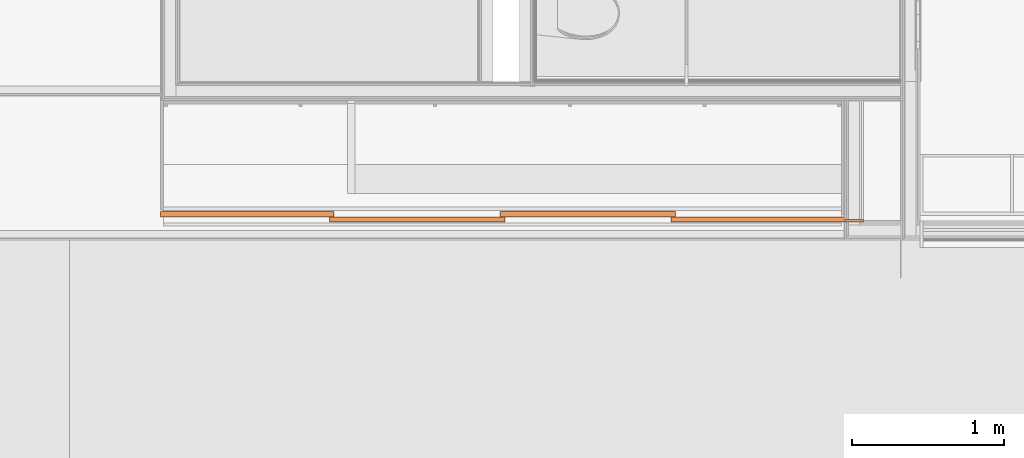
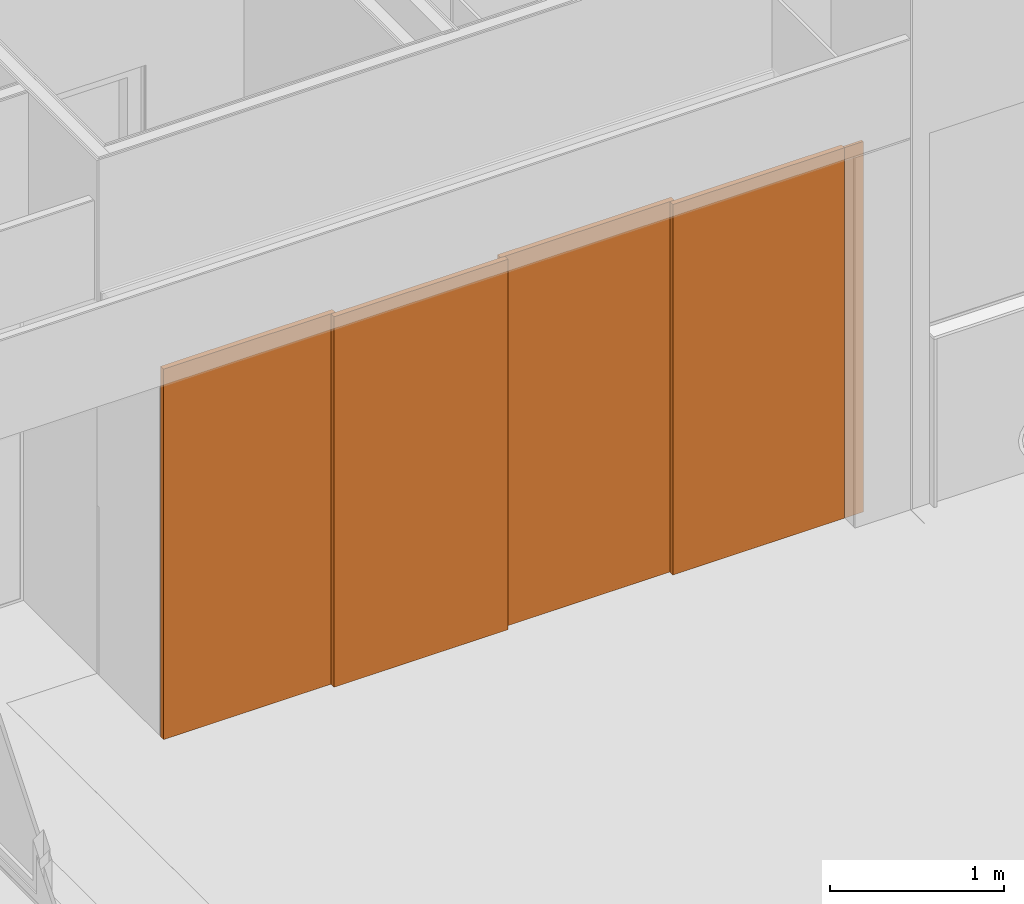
# One storey, part 120 of 137: 5 proxies, 2 openings.
"""IFC2X3 building model written with IfcOpenShell, lengths in millimetres."""

from ifc_helpers import new_model, entity, si_unit, converted_unit, derived_unit, money_unit, direction, frame, origin_with_axes, place, context, subcontext, project, spatial, faceted_brep, source, transform, mapped, material, type_object, type_shapes, element, fill, save


model = new_model("IFC2X3")

# Units and contexts
model_context = context("Model", 3, precision=0.01, world=origin_with_axes(), true_north=direction((0.0, 1.0)))
body_context = subcontext(model_context, "Body", "Model", "MODEL_VIEW")
ifc_project = project(units=[si_unit("LENGTHUNIT", "METRE", prefix="MILLI"), si_unit("AREAUNIT", "SQUARE_METRE"), si_unit("VOLUMEUNIT", "CUBIC_METRE"), converted_unit("PLANEANGLEUNIT", "DEGREE", entity("IfcPlaneAngleMeasure", 0.0174532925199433), si_unit("PLANEANGLEUNIT", "RADIAN"), dimensions=[0, 0, 0, 0, 0, 0, 0]), money_unit("EUR"), converted_unit("TIMEUNIT", "Year", entity("IfcTimeMeasure", 31556926.0), si_unit("TIMEUNIT", "SECOND"), dimensions=[0, 0, 1, 0, 0, 0, 0]), si_unit("MASSUNIT", "GRAM", prefix="KILO"), si_unit("THERMODYNAMICTEMPERATUREUNIT", "DEGREE_CELSIUS"), si_unit("LUMINOUSINTENSITYUNIT", "LUMEN"), si_unit("ENERGYUNIT", "JOULE", prefix="MEGA"), derived_unit("THERMALCONDUCTANCEUNIT", [(si_unit("POWERUNIT", "WATT"), 1), (si_unit("LENGTHUNIT", "METRE"), -1), (si_unit("THERMODYNAMICTEMPERATUREUNIT", "KELVIN"), -1)]), derived_unit("SPECIFICHEATCAPACITYUNIT", [(si_unit("ENERGYUNIT", "JOULE"), 1), (si_unit("MASSUNIT", "GRAM", prefix="KILO"), -1), (si_unit("THERMODYNAMICTEMPERATUREUNIT", "KELVIN"), -1)]), derived_unit("MASSDENSITYUNIT", [(si_unit("MASSUNIT", "GRAM", prefix="KILO"), 1), (si_unit("VOLUMEUNIT", "CUBIC_METRE"), -1)])], contexts=[model_context])

# Site, building, storey
site_placement = place(None, origin_with_axes())
site = spatial("IfcSite", under=ifc_project, at=site_placement, Name="Site", CompositionType="ELEMENT")
building_placement = place(site_placement, origin_with_axes())
building = spatial("IfcBuilding", under=site, at=building_placement, Name="Naam gebouw", CompositionType="ELEMENT")
storey_placement = place(building_placement, frame((0.0, 0.0, 3960.0), z_axis=(0.0, 0.0, 1.0), x_axis=(1.0, 0.0, 0.0)))
storey = spatial("IfcBuildingStorey", under=building, at=storey_placement, Name="1e verdieping", CompositionType="ELEMENT", Elevation=3960.0)

# Proxies
building_element_proxy_type_1 = type_object("IfcBuildingElementProxyType", Name="gevelbekleding", PredefinedType="NOTDEFINED")
shared_shape_1 = source(origin_with_axes(), body_context, "Body", "Brep", [
    faceted_brep([(577.5, 0.0, 0.0), (577.5, -35.0, 0.0), (572.5, -35.0, 0.0), (572.5, 0.0, 0.0), (577.5, 0.0, 2600.0), (577.5, -35.0, 2600.0), (572.5, -35.0, 2600.0), (572.5, 0.0, 2600.0)], [[[0, 1, 2, 3]], [[4, 5, 1, 0]], [[1, 5, 6, 2]], [[3, 2, 6, 7]], [[0, 3, 7, 4]], [[7, 6, 5, 4]]]),
    faceted_brep([(-577.5, 0.0, 0.0), (-577.5, -35.0, 0.0), (-577.5, -35.0, 2600.0), (-577.5, 0.0, 2600.0), (-572.5000000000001, 0.0, 0.0), (-572.5000000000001, -35.0, 0.0), (-572.5000000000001, -35.0, 2600.0), (-572.5000000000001, 0.0, 2600.0)], [[[0, 1, 2, 3]], [[4, 5, 1, 0]], [[1, 5, 6, 2]], [[3, 2, 6, 7]], [[0, 3, 7, 4]], [[7, 6, 5, 4]]]),
    faceted_brep([(577.5, 0.0, 0.0), (577.5, -35.0, 0.0), (-577.5, -35.0, 0.0), (-577.5, 0.0, 0.0), (577.5, 0.0, 2600.0), (577.5, -35.0, 2600.0), (-577.5, -35.0, 2600.0), (-577.5, 0.0, 2600.0)], [[[0, 1, 2, 3]], [[4, 5, 1, 0]], [[1, 5, 6, 2]], [[3, 2, 6, 7]], [[0, 3, 7, 4]], [[7, 6, 5, 4]]]),
])
proxy_1_placement = place(storey_placement, frame((4209.000071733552, 19504.97621406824, 0.0), z_axis=(0.0, 0.0, 1.0), x_axis=(-1.0, 0.0, 0.0)))
element("IfcBuildingElementProxy", 1, at=proxy_1_placement, inside=storey, type_object=building_element_proxy_type_1, Name="_-", context=body_context, shape_type="MappedRepresentation", body=[
    mapped(shared_shape_1, transform((577.4999999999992, 0.0, 0.0))),
])
shared_shape_2 = source(origin_with_axes(), body_context, "Body", "Brep", [
    faceted_brep([(-570.0, 0.0, 0.0), (-565.0, 0.0, 0.0), (-565.0, -35.0, 0.0), (-570.0, -35.0, 0.0), (-570.0, 0.0, 2600.0), (-565.0, 0.0, 2600.0), (-565.0, -35.0, 2600.0), (-570.0, -35.0, 2600.0)], [[[0, 1, 2, 3]], [[0, 4, 5, 1]], [[1, 5, 6, 2]], [[3, 2, 6, 7]], [[4, 0, 3, 7]], [[5, 4, 7, 6]]]),
    faceted_brep([(570.0, 0.0, 0.0), (570.0, 0.0, 2600.0), (570.0, -35.0, 2600.0), (570.0, -35.0, 0.0), (565.0000000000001, 0.0, 0.0), (565.0000000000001, 0.0, 2600.0), (565.0000000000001, -35.0, 2600.0), (565.0000000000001, -35.0, 0.0)], [[[0, 1, 2, 3]], [[0, 4, 5, 1]], [[1, 5, 6, 2]], [[3, 2, 6, 7]], [[4, 0, 3, 7]], [[5, 4, 7, 6]]]),
    faceted_brep([(-570.0, 0.0, 0.0), (570.0, 0.0, 0.0), (570.0, -35.0, 0.0), (-570.0, -35.0, 0.0), (-570.0, 0.0, 2600.0), (570.0, 0.0, 2600.0), (570.0, -35.0, 2600.0), (-570.0, -35.0, 2600.0)], [[[0, 1, 2, 3]], [[0, 4, 5, 1]], [[1, 5, 6, 2]], [[3, 2, 6, 7]], [[4, 0, 3, 7]], [[5, 4, 7, 6]]]),
])
proxy_2_placement = place(storey_placement, frame((3084.000001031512, 19504.97621406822, 0.0), z_axis=(0.0, 0.0, 1.0), x_axis=(-1.0, 0.0, 0.0)))
element("IfcBuildingElementProxy", 2, at=proxy_2_placement, inside=storey, type_object=building_element_proxy_type_1, Name="_-", context=body_context, shape_type="MappedRepresentation", body=[
    mapped(shared_shape_2, transform((569.9999999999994, -34.99999999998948, 0.0))),
])

# Proxies, openings
ifc_material = material(Name="Hout - Multiplex")
building_element_proxy_type_2 = type_object("IfcBuildingElementProxyType", Name="Hout - Multiplex 18", PredefinedType="NOTDEFINED")
proxy_3_placement = place(storey_placement, frame((4193.999924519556, 19504.9762140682, 0.0), z_axis=(0.0, 0.0, 1.0), x_axis=(1.0, 0.0, 0.0)))
proxy_3 = element("IfcBuildingElementProxy", 3, at=proxy_3_placement, inside=storey, type_object=building_element_proxy_type_2, material=ifc_material, Name="i4 In lagen verlijmd hout_Leeg", context=body_context, shape_type="Brep", body=[
    faceted_brep([(2375.000075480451, 17.99999999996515, 2600.0), (2375.000075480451, 17.99999999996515, 0.0), (2250.00007070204, 17.99999999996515, 0.0), (2250.00007070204, 17.99999999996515, 2600.0), (2375.000075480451, 0.0, 2600.0), (2375.000075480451, 0.0, 0.0), (2250.00007070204, 0.0, 0.0), (2250.00007070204, 0.0, 2600.0)], [[[0, 1, 2, 3]], [[4, 5, 1, 0]], [[1, 5, 6, 2]], [[2, 6, 7, 3]], [[4, 0, 3, 7]], [[5, 4, 7, 6]]]),
])
opening_1_placement = place(proxy_3_placement, frame((1679.999999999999, 0.0, 0.0), z_axis=(0.0, 0.0, 1.0), x_axis=(1.0, 0.0, 0.0)))
opening_1 = element("IfcOpeningElement", 4, at=opening_1_placement, cuts=proxy_3, Name="_-", context=body_context, shape_type="Brep", body=[
    faceted_brep([(-570.000070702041, -1.000000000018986, 2600.0), (-570.000070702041, -1.000000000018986, 0.0), (570.000070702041, -1.000000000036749, 0.0), (570.000070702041, -1.000000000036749, 2600.0), (-570.000070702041, 19.00000000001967, 2600.0), (-570.000070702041, 19.00000000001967, 0.0), (570.000070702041, 19.0000000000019, 0.0), (570.000070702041, 19.0000000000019, 2600.0)], [[[0, 1, 2, 3]], [[4, 5, 1, 0]], [[5, 6, 2, 1]], [[6, 7, 3, 2]], [[7, 4, 0, 3]], [[6, 5, 4, 7]]]),
])
opening_2_placement = place(proxy_3_placement, frame((562.4999999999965, 0.0, 0.0), z_axis=(0.0, 0.0, 1.0), x_axis=(1.0, 0.0, 0.0)))
opening_2 = element("IfcOpeningElement", 5, at=opening_2_placement, cuts=proxy_3, Name="_-", context=body_context, shape_type="Brep", body=[
    faceted_brep([(-577.4999999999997, -1.000000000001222, 0.0), (577.4999999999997, -1.000000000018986, 0.0), (577.4999999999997, -1.000000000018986, 2600.0), (-577.4999999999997, -1.000000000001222, 2600.0), (-577.4999999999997, 19.00000000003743, 0.0), (577.4999999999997, 19.00000000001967, 0.0), (577.4999999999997, 19.00000000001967, 2600.0), (-577.4999999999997, 19.00000000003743, 2600.0)], [[[0, 1, 2, 3]], [[4, 5, 1, 0]], [[5, 6, 2, 1]], [[6, 7, 3, 2]], [[7, 4, 0, 3]], [[6, 5, 4, 7]]]),
])
shared_shape_3 = source(origin_with_axes(), body_context, "Body", "Brep", [
    faceted_brep([(570.0000707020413, 0.0, 0.0), (570.0000707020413, -35.0, 0.0), (565.0000707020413, -35.0, 0.0), (565.0000707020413, 0.0, 0.0), (570.0000707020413, 0.0, 2600.0), (570.0000707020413, -35.0, 2600.0), (565.0000707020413, -35.0, 2600.0), (565.0000707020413, 0.0, 2600.0)], [[[0, 1, 2, 3]], [[4, 5, 1, 0]], [[1, 5, 6, 2]], [[3, 2, 6, 7]], [[0, 3, 7, 4]], [[7, 6, 5, 4]]]),
    faceted_brep([(-570.0000707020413, 0.0, 0.0), (-570.0000707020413, -35.0, 0.0), (-570.0000707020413, -35.0, 2600.0), (-570.0000707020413, 0.0, 2600.0), (-565.0000707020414, 0.0, 0.0), (-565.0000707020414, -35.0, 0.0), (-565.0000707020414, -35.0, 2600.0), (-565.0000707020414, 0.0, 2600.0)], [[[0, 1, 2, 3]], [[4, 5, 1, 0]], [[1, 5, 6, 2]], [[3, 2, 6, 7]], [[0, 3, 7, 4]], [[7, 6, 5, 4]]]),
    faceted_brep([(570.0000707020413, 0.0, 0.0), (570.0000707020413, -35.0, 0.0), (-570.0000707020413, -35.0, 0.0), (-570.0000707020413, 0.0, 0.0), (570.0000707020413, 0.0, 2600.0), (570.0000707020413, -35.0, 2600.0), (-570.0000707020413, -35.0, 2600.0), (-570.0000707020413, 0.0, 2600.0)], [[[0, 1, 2, 3]], [[4, 5, 1, 0]], [[1, 5, 6, 2]], [[3, 2, 6, 7]], [[0, 3, 7, 4]], [[7, 6, 5, 4]]]),
])
proxy_4_placement = place(opening_1_placement, frame((570.000070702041, 0.0, 0.0), z_axis=(0.0, 0.0, 1.0), x_axis=(-1.0, 0.0, 0.0)))
proxy_4 = element("IfcBuildingElementProxy", 6, at=proxy_4_placement, inside=storey, type_object=building_element_proxy_type_1, Name="_-", context=body_context, shape_type="MappedRepresentation", body=[
    mapped(shared_shape_3, transform((570.000070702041, 0.0, 0.0))),
])
fill(opening_1, proxy_4)
shared_shape_4 = source(origin_with_axes(), body_context, "Body", "Brep", [
    faceted_brep([(-577.5, 0.0, 0.0), (-572.5, 0.0, 0.0), (-572.5, -35.0, 0.0), (-577.5, -35.0, 0.0), (-577.5, 0.0, 2600.0), (-572.5, 0.0, 2600.0), (-572.5, -35.0, 2600.0), (-577.5, -35.0, 2600.0)], [[[0, 1, 2, 3]], [[0, 4, 5, 1]], [[1, 5, 6, 2]], [[3, 2, 6, 7]], [[4, 0, 3, 7]], [[5, 4, 7, 6]]]),
    faceted_brep([(577.5, 0.0, 0.0), (577.5, 0.0, 2600.0), (577.5, -35.0, 2600.0), (577.5, -35.0, 0.0), (572.5000000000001, 0.0, 0.0), (572.5000000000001, 0.0, 2600.0), (572.5000000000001, -35.0, 2600.0), (572.5000000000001, -35.0, 0.0)], [[[0, 1, 2, 3]], [[0, 4, 5, 1]], [[1, 5, 6, 2]], [[3, 2, 6, 7]], [[4, 0, 3, 7]], [[5, 4, 7, 6]]]),
    faceted_brep([(-577.5, 0.0, 0.0), (577.5, 0.0, 0.0), (577.5, -35.0, 0.0), (-577.5, -35.0, 0.0), (-577.5, 0.0, 2600.0), (577.5, 0.0, 2600.0), (577.5, -35.0, 2600.0), (-577.5, -35.0, 2600.0)], [[[0, 1, 2, 3]], [[0, 4, 5, 1]], [[1, 5, 6, 2]], [[3, 2, 6, 7]], [[4, 0, 3, 7]], [[5, 4, 7, 6]]]),
])
type_shapes(building_element_proxy_type_1, [shared_shape_1, shared_shape_2, shared_shape_3, shared_shape_4])
proxy_5_placement = place(opening_2_placement, frame((577.4999999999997, 0.0, 0.0), z_axis=(0.0, 0.0, 1.0), x_axis=(-1.0, 0.0, 0.0)))
proxy_5 = element("IfcBuildingElementProxy", 7, at=proxy_5_placement, inside=storey, type_object=building_element_proxy_type_1, Name="_-", context=body_context, shape_type="MappedRepresentation", body=[
    mapped(shared_shape_4, transform((577.4999999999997, -34.99999999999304, 0.0))),
])
fill(opening_2, proxy_5)

save(model, "model.ifc")
